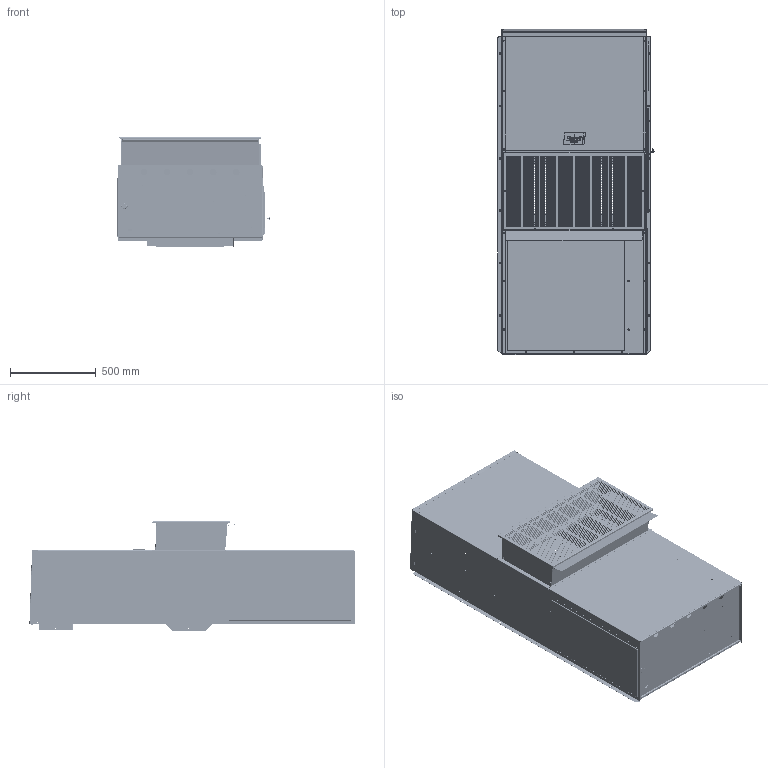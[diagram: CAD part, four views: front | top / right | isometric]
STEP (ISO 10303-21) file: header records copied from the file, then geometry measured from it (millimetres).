
FILE_DESCRIPTION (( 'STEP AP203' ), '1' );
FILE_NAME ('STEP_600_7.STEP', '2016-06-20T19:16:46', ( '' ), ( '' ), 'SwSTEP 2.0', 'SolidWorks 2016', '' );
FILE_SCHEMA (( 'CONFIG_CONTROL_DESIGN' ));
Products named in the file (1): STEP_600_7
Bounding box: 909.18 x 1893.92 x 636.54 mm (x, y, z)
Volume: 6472863.4 mm3; surface area: 14215022.6 mm2
Topology: 63 solids, 63 shells, 9038 faces, 24031 edges, 15278 vertices
Faces by surface type: plane 4397, cylinder 2255, bspline 2091, cone 134, torus 119, sphere 42
Entity records: 454588 total; most frequent: CARTESIAN_POINT 211075, ORIENTED_EDGE 56858, DIRECTION 40794, EDGE_CURVE 28429, VERTEX_POINT 17896, LINE 15240, VECTOR 15240, AXIS2_PLACEMENT_3D 12777
